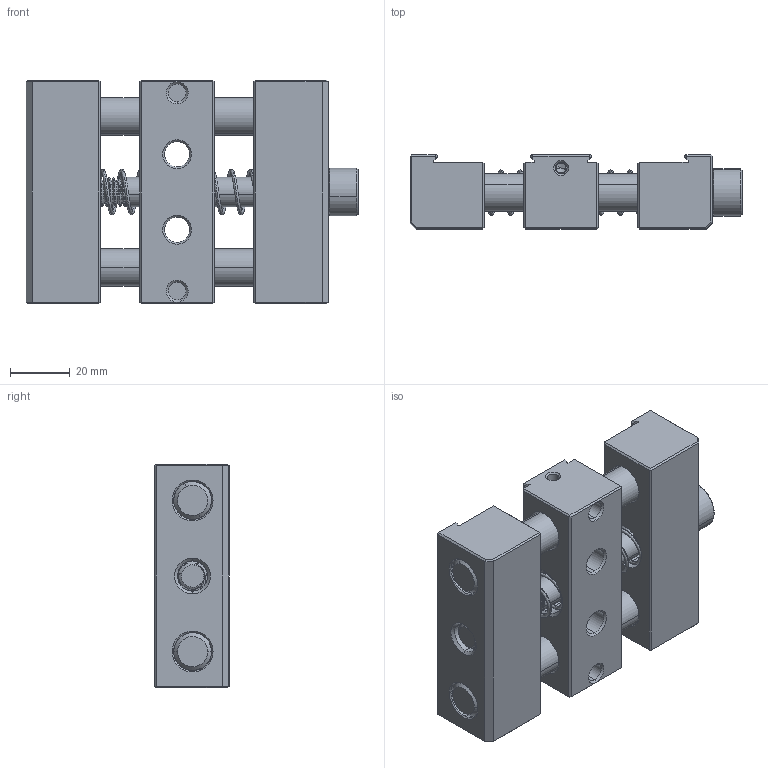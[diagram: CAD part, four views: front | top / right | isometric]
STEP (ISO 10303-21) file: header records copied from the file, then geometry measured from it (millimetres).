
FILE_DESCRIPTION (( 'STEP AP214' ), '1' );
FILE_NAME ('PV3X-4A REV B.STEP', '2021-04-07T20:15:17', ( '' ), ( '' ), 'SwSTEP 2.0', 'SolidWorks 2019', '' );
FILE_SCHEMA (( 'AUTOMOTIVE_DESIGN' ));
Length unit declared in the file: inch
Products named in the file (7): 0500X4000.DP_0500X4000.DP; PV3X-3A_FINISHED PART; PV3X-2A_FINISHED PART; M10X100.SHCS_91290A558; LC045H10 M_For 4 in; PV3X-1_FINISHED PART ; PV3X-4A REV B
Assembly tree (8 placements, depth 2):
  PV3X-4A REV B
    PV3X-1_FINISHED PART 
    PV3X-2A_FINISHED PART
    PV3X-3A_FINISHED PART
    0500X4000.DP_0500X4000.DP  x2
    LC045H10 M_For 4 in  x2
    M10X100.SHCS_91290A558
Bounding box: 111.6 x 24.99 x 75 mm (x, y, z)
Volume: 131706.8 mm3; surface area: 49109.9 mm2
Topology: 8 solids, 8 shells, 582 faces, 1524 edges, 970 vertices
Faces by surface type: plane 263, cylinder 235, cone 74, bspline 10
Entity records: 28505 total; most frequent: CARTESIAN_POINT 15173, ORIENTED_EDGE 2992, DIRECTION 2483, EDGE_CURVE 1496, VERTEX_POINT 956, AXIS2_PLACEMENT_3D 857, LINE 769, VECTOR 769
